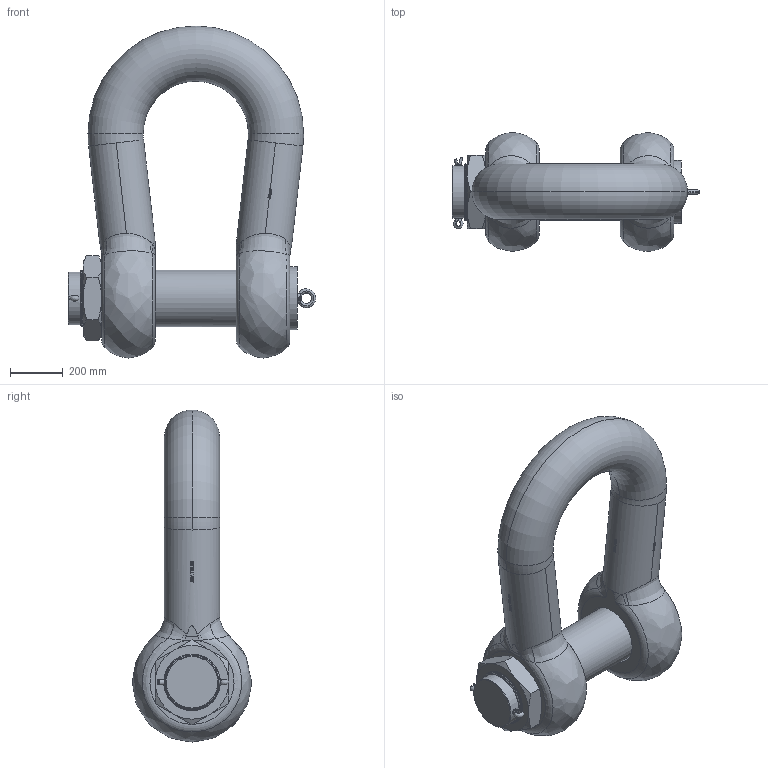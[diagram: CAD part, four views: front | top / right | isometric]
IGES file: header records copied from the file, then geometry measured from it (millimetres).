
Global section: file name: No Iges File Name specified; native system: Autodesk Inventor 2009; preprocessor: AutoDesk Inventor Iges Exporter R2009; author: Jack; date: 20091212.144003; units: millimetre
Bounding box: 941 x 454 x 1262.49 mm (x, y, z)
Volume: 136826707.7 mm3; surface area: 3239345.2 mm2
Topology: 5 solids, 5 shells, 803 faces, 2143 edges, 1405 vertices
Faces by surface type: plane 392, bspline 225, cylinder 108, revolution 36, torus 22, cone 20
Full cylindrical faces by diameter (mm): 215 x15
